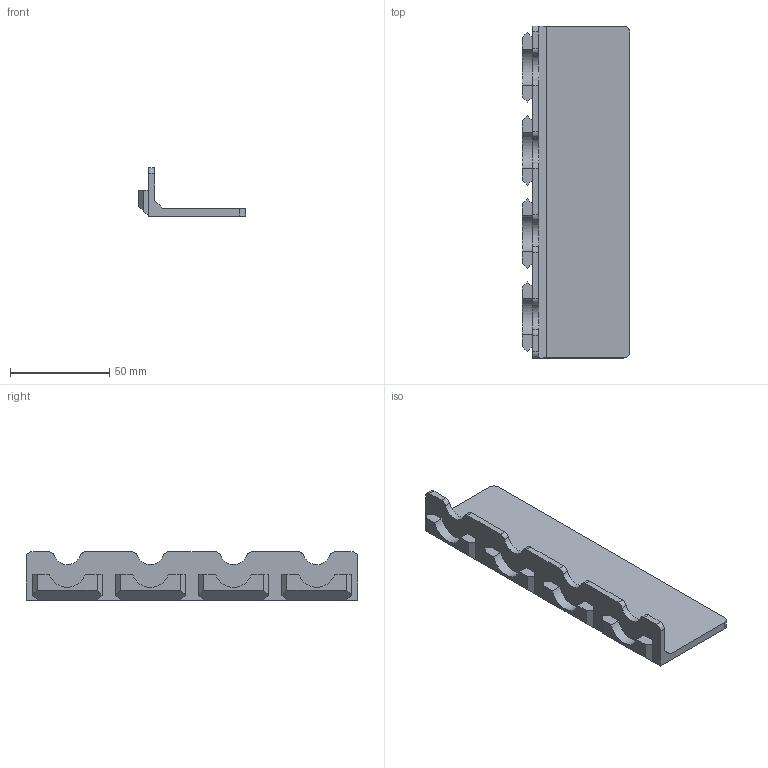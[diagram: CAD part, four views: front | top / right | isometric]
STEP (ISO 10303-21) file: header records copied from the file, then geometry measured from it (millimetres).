
FILE_DESCRIPTION(/* description */ ('','CAx-IF Rec.Pracs.---Representation and Presentation of Product Manufacturing Information (PMI)---4.0---2014-10-13'),/* implementation_level */ '2;1');
FILE_NAME(/* name */ 'Goews 4x Hanger Shelf 1x.step',/* time_stamp */ '2024-11-28T10:20:42-05:00',/* author */ (''),/* organization */ (''),/* preprocessor_version */ 'ST-DEVELOPER v20',/* originating_system */ 'Autodesk Translation Framework v13.20.0.188',/* authorisation */ '');
FILE_SCHEMA (('AP242_MANAGED_MODEL_BASED_3D_ENGINEERING_MIM_LF { 1 0 10303 442 1 1 4 }'));
Length unit declared in the file: millimetre
Products named in the file (1): Goews 4x Hanger Shelf 1x
Bounding box: 54.15 x 167.6 x 24.39 mm (x, y, z)
Volume: 48927.1 mm3; surface area: 25943.1 mm2
Topology: 1 solids, 1 shells, 77 faces, 205 edges, 134 vertices
Faces by surface type: plane 57, cylinder 20
Entity records: 2408 total; most frequent: CARTESIAN_POINT 417, ORIENTED_EDGE 410, DIRECTION 401, EDGE_CURVE 205, LINE 165, VECTOR 165, VERTEX_POINT 134, AXIS2_PLACEMENT_3D 118
